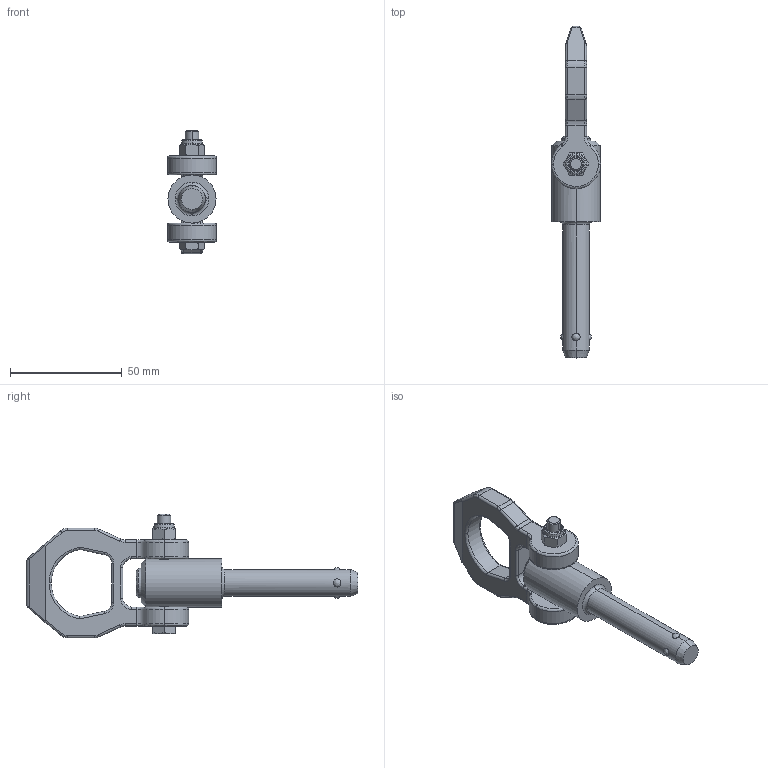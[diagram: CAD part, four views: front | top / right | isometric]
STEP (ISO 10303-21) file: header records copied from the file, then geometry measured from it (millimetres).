
FILE_DESCRIPTION (( 'STEP AP214' ), '1' );
FILE_NAME ('1130-12-50-NI.step', '2023-05-11T09:32:20', ( '' ), ( '' ), 'SwSTEP 2.0', 'SolidWorks 2022', '' );
FILE_SCHEMA (( 'AUTOMOTIVE_DESIGN' ));
Length unit declared in the file: millimetre
Products named in the file (3): Kopie von bolzen1^WB1130_NI_12-50-NI; Kopie von ring2^WB1130_NI; 1130-12-50-NI
Assembly tree (2 placements, depth 2):
  1130-12-50-NI
    Kopie von bolzen1^WB1130_NI_12-50-NI
    Kopie von ring2^WB1130_NI
Bounding box: 22 x 148.5 x 55.25 mm (x, y, z)
Volume: 38955.5 mm3; surface area: 13685.6 mm2
Topology: 2 solids, 2 shells, 244 faces, 607 edges, 375 vertices
Faces by surface type: plane 83, cylinder 77, bspline 52, cone 26, torus 6
Entity records: 9664 total; most frequent: CARTESIAN_POINT 4348, ORIENTED_EDGE 1214, DIRECTION 895, EDGE_CURVE 607, VERTEX_POINT 375, AXIS2_PLACEMENT_3D 333, EDGE_LOOP 258, FACE_OUTER_BOUND 244
